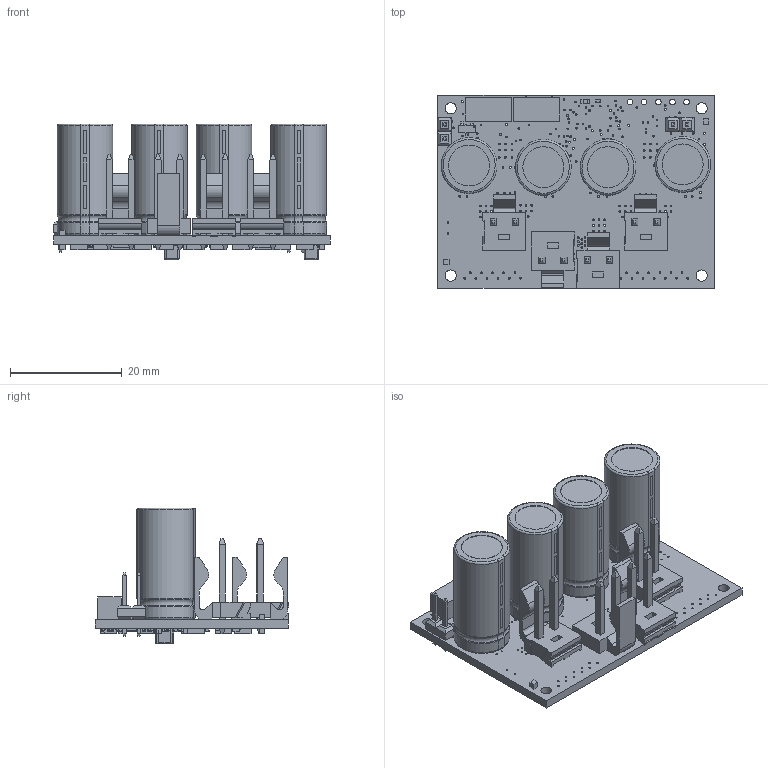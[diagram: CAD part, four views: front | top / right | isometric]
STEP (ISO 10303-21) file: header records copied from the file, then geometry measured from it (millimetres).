
FILE_DESCRIPTION(/* description */ (''),/* implementation_level */ '2;1');
FILE_NAME(/* name */ 'C:/Users/priba/Downloads/mrm-mot2x50.step',/* time_stamp */ '2020-09-13T09:36:51+02:00',/* author */ (''),/* organization */ (''),/* preprocessor_version */ 'ST-DEVELOPER v18.1',/* originating_system */ 'Autodesk Translation Framework v9.3.0.1241',/* authorisation */ '');
FILE_SCHEMA (('AUTOMOTIVE_DESIGN { 1 0 10303 214 3 1 1 }'));
Length unit declared in the file: millimetre
Products named in the file (32): mrm-mot2x50; PCB Component; Board; ON_SEMICONDUCTOR_RB751S40T1G; AON7418; MICROCHIP_MCP1725T-ADJE/MC; DIODES_MMBT3904-7-F; TI_DRV8701ERGER; Body; ThermalPin; PinsArrayLR; PinsArrayTB; MOLEX_1718130002; CRE2512-FZ-R005E-3; 100nF/50V; 470uF; 1.5kOhm; 1uF/16V; 10uF/63V; Fillet1; Fillet2; body2; FIDUCIAL1X2; JST_BM04B-GHK-TBT; CONN_051X05_PINLESS; STM32F042G6U6; CONN_02; SML-P11MTT86R; 1.5kOhm/0603; MICROCHIP_ATA6561-GBQW-N; EPSON_TSX-3225; VISHAY_SI2347DS-T1-GE3
Assembly tree (93 placements, depth 4):
  mrm-mot2x50
    PCB Component
      Board
      AON7418  x9
      ON_SEMICONDUCTOR_RB751S40T1G
      MICROCHIP_MCP1725T-ADJE/MC
      DIODES_MMBT3904-7-F
      TI_DRV8701ERGER  x2
        Body
        ThermalPin
        PinsArrayLR
        PinsArrayTB
      MOLEX_1718130002  x4
      CRE2512-FZ-R005E-3  x2
      100nF/50V  x23
      470uF  x4
      1.5kOhm  x18
      1uF/16V  x2
      10uF/63V  x2
        Fillet1
        Fillet2
        body2
      FIDUCIAL1X2  x4
      JST_BM04B-GHK-TBT  x2
      CONN_051X05_PINLESS
      STM32F042G6U6
      CONN_02  x2
      SML-P11MTT86R
      1.5kOhm/0603
      MICROCHIP_ATA6561-GBQW-N
      EPSON_TSX-3225
      VISHAY_SI2347DS-T1-GE3
Bounding box: 49.67 x 34.63 x 24.37 mm (x, y, z)
Volume: 10435.9 mm3; surface area: 10833.9 mm2
Topology: 165 solids, 165 shells, 5170 faces, 14112 edges, 9180 vertices
Faces by surface type: plane 2731, cylinder 1807, sphere 560, torus 40, bspline 32
Full cylindrical faces by diameter (mm): 0.3 x335, 0.5 x2, 0.6 x8, 0.7 x8, 1.016 x9, 1.65 x8, 2 x4, 7.333 x4
Entity records: 58304 total; most frequent: CARTESIAN_POINT 11394, DIRECTION 9140, ORIENTED_EDGE 8858, EDGE_CURVE 4429, AXIS2_PLACEMENT_3D 3154, VERTEX_POINT 2867, LINE 2832, VECTOR 2832
